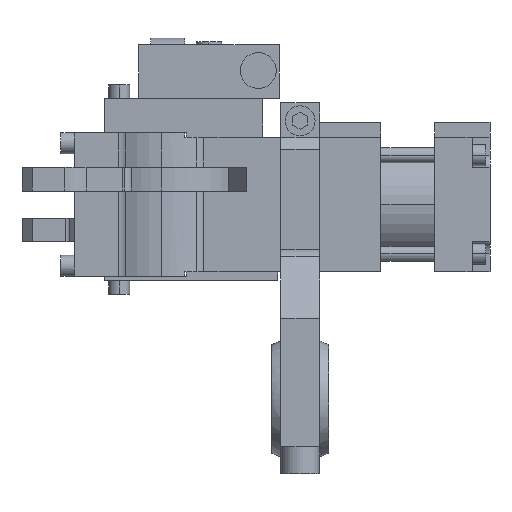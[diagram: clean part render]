
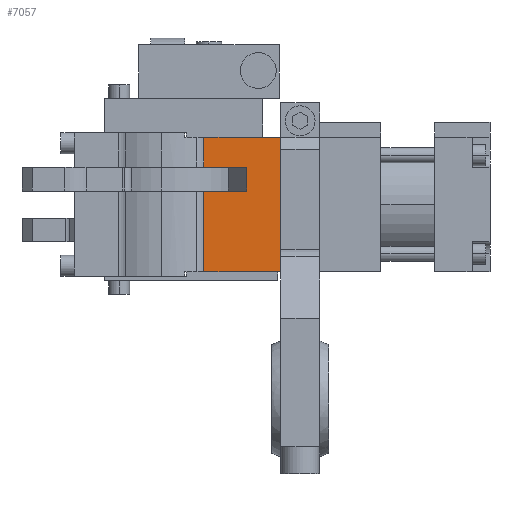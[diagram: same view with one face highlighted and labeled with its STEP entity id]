
A CAD part, left-side view. The second image highlights one B-rep face of the part: STEP entity #7057.
In plain terms, the highlighted planar face has unit normal (-1, 0, 0).
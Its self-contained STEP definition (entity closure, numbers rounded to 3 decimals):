
#47 = VECTOR ( 'NONE', #3958, 1000. ) ;
#179 = CARTESIAN_POINT ( 'NONE',  ( -22.5, -14.309, 12.5 ) ) ;
#253 = LINE ( 'NONE', #393, #5676 ) ;
#393 = CARTESIAN_POINT ( 'NONE',  ( -22.5, -14.309, 4.5 ) ) ;
#1109 = VERTEX_POINT ( 'NONE', #1145 ) ;
#1135 = DIRECTION ( 'NONE',  ( 1., 0., 0. ) ) ;
#1145 = CARTESIAN_POINT ( 'NONE',  ( -22.5, -14.309, 4.5 ) ) ;
#1322 = DIRECTION ( 'NONE',  ( 0., 0., -1. ) ) ;
#1845 = CARTESIAN_POINT ( 'NONE',  ( -22.5, -28.702, 12.5 ) ) ;
#2098 = EDGE_CURVE ( 'NONE', #12208, #11039, #5923, .T. ) ;
#2146 = VECTOR ( 'NONE', #7185, 1000. ) ;
#2209 = FACE_OUTER_BOUND ( 'NONE', #12947, .T. ) ;
#3130 = VECTOR ( 'NONE', #5482, 1000. ) ;
#3486 = LINE ( 'NONE', #11314, #3130 ) ;
#3593 = CARTESIAN_POINT ( 'NONE',  ( -22.5, -14.309, 12.5 ) ) ;
#3958 = DIRECTION ( 'NONE',  ( 0., 1., 0. ) ) ;
#5113 = DIRECTION ( 'NONE',  ( 0., 0., 1. ) ) ;
#5170 = EDGE_CURVE ( 'NONE', #8925, #1109, #253, .T. ) ;
#5196 = ORIENTED_EDGE ( 'NONE', *, *, #6774, .F. ) ;
#5482 = DIRECTION ( 'NONE',  ( 0., -1., 0. ) ) ;
#5676 = VECTOR ( 'NONE', #14319, 1000. ) ;
#5795 = CARTESIAN_POINT ( 'NONE',  ( -22.5, -40., 12.5 ) ) ;
#5834 = ORIENTED_EDGE ( 'NONE', *, *, #12518, .T. ) ;
#5923 = LINE ( 'NONE', #5795, #8672 ) ;
#6053 = CARTESIAN_POINT ( 'NONE',  ( -22.5, -14.309, 12.5 ) ) ;
#6463 = EDGE_CURVE ( 'NONE', #6568, #11039, #3486, .T. ) ;
#6568 = VERTEX_POINT ( 'NONE', #10390 ) ;
#6579 = VECTOR ( 'NONE', #7882, 1000. ) ;
#6774 = EDGE_CURVE ( 'NONE', #10589, #7177, #9295, .T. ) ;
#7057 = ADVANCED_FACE ( 'NONE', ( #2209 ), #13868, .F. ) ;
#7155 = EDGE_CURVE ( 'NONE', #10298, #7177, #10028, .T. ) ;
#7177 = VERTEX_POINT ( 'NONE', #3593 ) ;
#7185 = DIRECTION ( 'NONE',  ( 0., 0., -1. ) ) ;
#7882 = DIRECTION ( 'NONE',  ( 0., 1., 0. ) ) ;
#8108 = CARTESIAN_POINT ( 'NONE',  ( -22.5, -14.309, 22.5 ) ) ;
#8302 = ORIENTED_EDGE ( 'NONE', *, *, #12246, .F. ) ;
#8589 = CARTESIAN_POINT ( 'NONE',  ( -22.5, -28.702, 12.5 ) ) ;
#8672 = VECTOR ( 'NONE', #10463, 1000. ) ;
#8925 = VERTEX_POINT ( 'NONE', #14749 ) ;
#9054 = CARTESIAN_POINT ( 'NONE',  ( -22.5, -40., 22.5 ) ) ;
#9223 = EDGE_CURVE ( 'NONE', #1109, #6568, #10693, .T. ) ;
#9250 = DIRECTION ( 'NONE',  ( 0., 1., 0. ) ) ;
#9295 = LINE ( 'NONE', #9777, #47 ) ;
#9498 = VECTOR ( 'NONE', #5113, 1000. ) ;
#9661 = CARTESIAN_POINT ( 'NONE',  ( -22.5, -40., 22.5 ) ) ;
#9777 = CARTESIAN_POINT ( 'NONE',  ( -22.5, -14.309, 12.5 ) ) ;
#10028 = LINE ( 'NONE', #179, #13094 ) ;
#10167 = ORIENTED_EDGE ( 'NONE', *, *, #5170, .T. ) ;
#10298 = VERTEX_POINT ( 'NONE', #8108 ) ;
#10390 = CARTESIAN_POINT ( 'NONE',  ( -22.5, -14.309, -22.5 ) ) ;
#10463 = DIRECTION ( 'NONE',  ( 0., 0., -1. ) ) ;
#10503 = ORIENTED_EDGE ( 'NONE', *, *, #9223, .T. ) ;
#10589 = VERTEX_POINT ( 'NONE', #1845 ) ;
#10693 = LINE ( 'NONE', #6053, #2146 ) ;
#11039 = VERTEX_POINT ( 'NONE', #13092 ) ;
#11314 = CARTESIAN_POINT ( 'NONE',  ( -22.5, -40., -22.5 ) ) ;
#12056 = AXIS2_PLACEMENT_3D ( 'NONE', #15006, #1135, #9250 ) ;
#12208 = VERTEX_POINT ( 'NONE', #9661 ) ;
#12246 = EDGE_CURVE ( 'NONE', #8925, #10589, #13326, .T. ) ;
#12518 = EDGE_CURVE ( 'NONE', #12208, #10298, #12771, .T. ) ;
#12771 = LINE ( 'NONE', #9054, #6579 ) ;
#12783 = ORIENTED_EDGE ( 'NONE', *, *, #7155, .T. ) ;
#12847 = ORIENTED_EDGE ( 'NONE', *, *, #6463, .T. ) ;
#12947 = EDGE_LOOP ( 'NONE', ( #5196, #8302, #10167, #10503, #12847, #14647, #5834, #12783 ) ) ;
#13092 = CARTESIAN_POINT ( 'NONE',  ( -22.5, -40., -22.5 ) ) ;
#13094 = VECTOR ( 'NONE', #1322, 1000. ) ;
#13326 = LINE ( 'NONE', #8589, #9498 ) ;
#13868 = PLANE ( 'NONE',  #12056 ) ;
#14319 = DIRECTION ( 'NONE',  ( 0., 1., 0. ) ) ;
#14647 = ORIENTED_EDGE ( 'NONE', *, *, #2098, .F. ) ;
#14749 = CARTESIAN_POINT ( 'NONE',  ( -22.5, -28.702, 4.5 ) ) ;
#15006 = CARTESIAN_POINT ( 'NONE',  ( -22.5, -14.309, 12.5 ) ) ;
